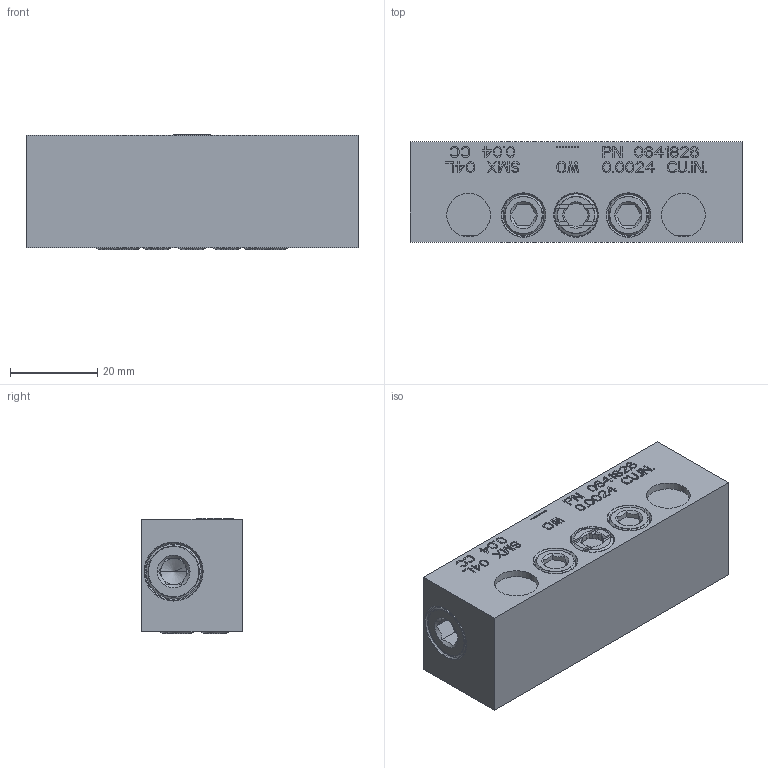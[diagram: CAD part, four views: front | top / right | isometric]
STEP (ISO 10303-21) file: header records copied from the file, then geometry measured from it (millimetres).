
FILE_DESCRIPTION((''),'2;1');
FILE_NAME('0641826_SMX_04L','2023-07-21T11:17:31',('pietro.masciave'),(''),'CREO PARAMETRIC BY PTC INC, 2022281','CREO PARAMETRIC BY PTC INC, 2022281','');
FILE_SCHEMA(('CONFIG_CONTROL_DESIGN'));
Length unit declared in the file: millimetre
Products named in the file (1): 0641826_SMX_04L
Bounding box: 76 x 23 x 26.33 mm (x, y, z)
Volume: 44002.1 mm3; surface area: 12684.3 mm2
Topology: 1 solids, 14 shells, 1345 faces, 3704 edges, 2461 vertices
Faces by surface type: plane 1169, cylinder 110, cone 44, torus 22
Entity records: 43322 total; most frequent: CARTESIAN_POINT 8808, ORIENTED_EDGE 7360, DIRECTION 6673, EDGE_CURVE 3700, VECTOR 3265, LINE 3265, VERTEX_POINT 2461, AXIS2_PLACEMENT_3D 1704
